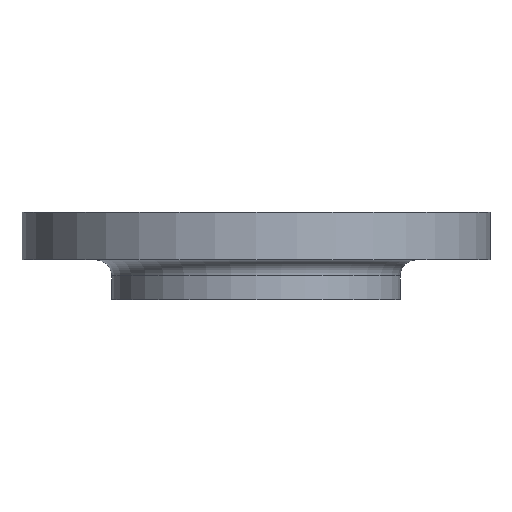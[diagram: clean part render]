
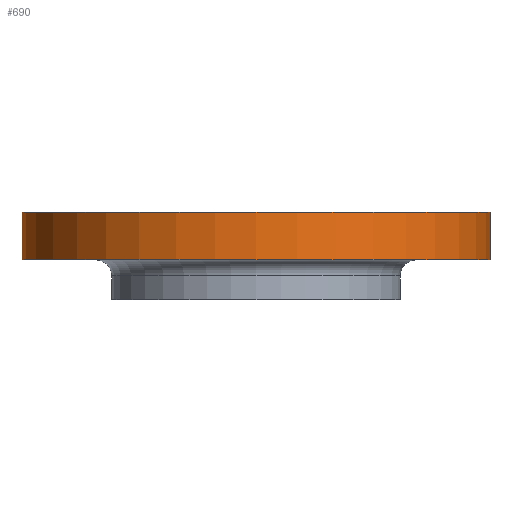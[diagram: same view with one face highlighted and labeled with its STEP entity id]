
A CAD part, front view. The second image highlights one B-rep face of the part: STEP entity #690.
In plain terms, the highlighted cylindrical face has radius 117.5 mm (diameter 235 mm), a partial arc.
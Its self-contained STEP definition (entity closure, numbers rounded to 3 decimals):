
#16 = CIRCLE ( 'NONE', #17, 117.5 ) ;
#17 = AXIS2_PLACEMENT_3D ( 'NONE', #326, #323, #322 ) ;
#23 = CIRCLE ( 'NONE', #116, 117.5 ) ;
#57 = CARTESIAN_POINT ( 'NONE',  ( -117.5, 0., -24. ) ) ;
#88 = VECTOR ( 'NONE', #318, 1000. ) ;
#103 = CARTESIAN_POINT ( 'NONE',  ( 117.5, 0., 0. ) ) ;
#116 = AXIS2_PLACEMENT_3D ( 'NONE', #285, #284, #283 ) ;
#193 = DIRECTION ( 'NONE',  ( 1., 0., 0. ) ) ;
#194 = DIRECTION ( 'NONE',  ( 0., 0., 1. ) ) ;
#195 = CARTESIAN_POINT ( 'NONE',  ( 0., 0., -75. ) ) ;
#196 = CYLINDRICAL_SURFACE ( 'NONE', #216, 117.5 ) ;
#197 = FACE_OUTER_BOUND ( 'NONE', #646, .T. ) ;
#204 = CARTESIAN_POINT ( 'NONE',  ( -117.5, 0., 0. ) ) ;
#216 = AXIS2_PLACEMENT_3D ( 'NONE', #195, #194, #193 ) ;
#235 = CARTESIAN_POINT ( 'NONE',  ( 117.5, 0., -24. ) ) ;
#283 = DIRECTION ( 'NONE',  ( 1., 0., 0. ) ) ;
#284 = DIRECTION ( 'NONE',  ( 0., 0., 1. ) ) ;
#285 = CARTESIAN_POINT ( 'NONE',  ( 0., 0., -24. ) ) ;
#318 = DIRECTION ( 'NONE',  ( 0., 0., 1. ) ) ;
#319 = CARTESIAN_POINT ( 'NONE',  ( 117.5, 0., -75. ) ) ;
#321 = LINE ( 'NONE', #319, #88 ) ;
#322 = DIRECTION ( 'NONE',  ( 1., 0., 0. ) ) ;
#323 = DIRECTION ( 'NONE',  ( 0., 0., 1. ) ) ;
#326 = CARTESIAN_POINT ( 'NONE',  ( 0., 0., 0. ) ) ;
#397 = EDGE_CURVE ( 'NONE', #933, #684, #525, .T. ) ;
#525 = LINE ( 'NONE', #526, #707 ) ;
#526 = CARTESIAN_POINT ( 'NONE',  ( -117.5, 0., -75. ) ) ;
#528 = DIRECTION ( 'NONE',  ( 0., 0., 1. ) ) ;
#552 = EDGE_CURVE ( 'NONE', #684, #819, #16, .T. ) ;
#591 = EDGE_CURVE ( 'NONE', #632, #819, #321, .T. ) ;
#598 = EDGE_CURVE ( 'NONE', #933, #632, #23, .T. ) ;
#632 = VERTEX_POINT ( 'NONE', #235 ) ;
#646 = EDGE_LOOP ( 'NONE', ( #808, #809, #810, #811 ) ) ;
#684 = VERTEX_POINT ( 'NONE', #204 ) ;
#690 = ADVANCED_FACE ( 'NONE', ( #197 ), #196, .T. ) ;
#707 = VECTOR ( 'NONE', #528, 1000. ) ;
#808 = ORIENTED_EDGE ( 'NONE', *, *, #397, .F. ) ;
#809 = ORIENTED_EDGE ( 'NONE', *, *, #598, .T. ) ;
#810 = ORIENTED_EDGE ( 'NONE', *, *, #591, .T. ) ;
#811 = ORIENTED_EDGE ( 'NONE', *, *, #552, .F. ) ;
#819 = VERTEX_POINT ( 'NONE', #103 ) ;
#933 = VERTEX_POINT ( 'NONE', #57 ) ;
